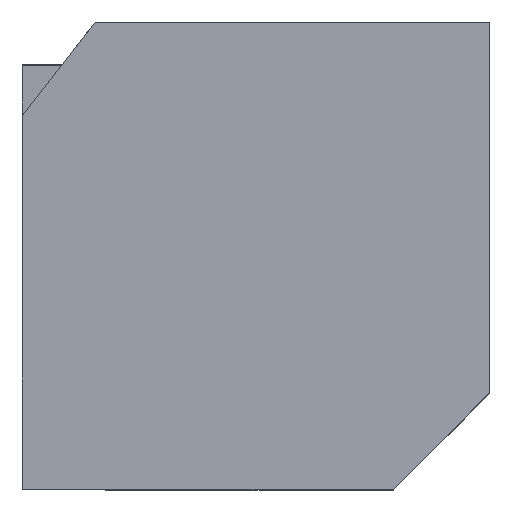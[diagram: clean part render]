
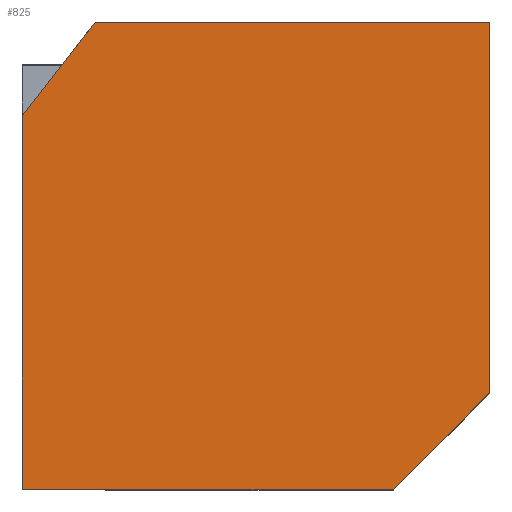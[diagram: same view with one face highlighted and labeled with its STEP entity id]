
A CAD part, top view. The second image highlights one B-rep face of the part: STEP entity #825.
In plain terms, the highlighted planar face has unit normal (0, 0, 1).
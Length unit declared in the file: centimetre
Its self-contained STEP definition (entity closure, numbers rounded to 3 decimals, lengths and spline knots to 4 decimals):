
#32 = LINE ( 'NONE', #694, #164 ) ;
#102 = ORIENTED_EDGE ( 'NONE', *, *, #804, .T. ) ;
#127 = CARTESIAN_POINT ( 'NONE',  ( 0., 799.7314, 1000. ) ) ;
#164 = VECTOR ( 'NONE', #1198, 100. ) ;
#168 = ORIENTED_EDGE ( 'NONE', *, *, #224, .F. ) ;
#172 = CARTESIAN_POINT ( 'NONE',  ( 1000., 1000., 1000. ) ) ;
#215 = CARTESIAN_POINT ( 'NONE',  ( 0., 1000., 1000. ) ) ;
#224 = EDGE_CURVE ( 'NONE', #582, #1205, #801, .T. ) ;
#244 = EDGE_CURVE ( 'NONE', #1020, #563, #678, .T. ) ;
#245 = LINE ( 'NONE', #999, #1162 ) ;
#286 = EDGE_CURVE ( 'NONE', #1325, #1205, #32, .T. ) ;
#342 = VECTOR ( 'NONE', #574, 100. ) ;
#362 = DIRECTION ( 'NONE',  ( 1., 0., 0. ) ) ;
#423 = EDGE_CURVE ( 'NONE', #582, #919, #1261, .T. ) ;
#461 = CARTESIAN_POINT ( 'NONE',  ( 397.0093, -397.0093, 1000. ) ) ;
#526 = ORIENTED_EDGE ( 'NONE', *, *, #244, .T. ) ;
#563 = VERTEX_POINT ( 'NONE', #1286 ) ;
#574 = DIRECTION ( 'NONE',  ( 0.707, 0.707, 0. ) ) ;
#582 = VERTEX_POINT ( 'NONE', #127 ) ;
#597 = DIRECTION ( 'NONE',  ( 0., 1., 0. ) ) ;
#641 = DIRECTION ( 'NONE',  ( 0., -1., 0. ) ) ;
#668 = DIRECTION ( 'NONE',  ( 1., 0., 0. ) ) ;
#678 = LINE ( 'NONE', #461, #342 ) ;
#694 = CARTESIAN_POINT ( 'NONE',  ( 0., 1000., 1000. ) ) ;
#735 = EDGE_LOOP ( 'NONE', ( #168, #959, #1069, #526, #102, #977 ) ) ;
#779 = CARTESIAN_POINT ( 'NONE',  ( 0., 0., 1000. ) ) ;
#799 = DIRECTION ( 'NONE',  ( 0., 0., 1. ) ) ;
#801 = LINE ( 'NONE', #1211, #1011 ) ;
#804 = EDGE_CURVE ( 'NONE', #563, #1325, #1130, .T. ) ;
#808 = CARTESIAN_POINT ( 'NONE',  ( 0., 0., 1000. ) ) ;
#825 = ADVANCED_FACE ( 'NONE', ( #1092 ), #1019, .T. ) ;
#919 = VERTEX_POINT ( 'NONE', #779 ) ;
#924 = VECTOR ( 'NONE', #641, 100. ) ;
#933 = EDGE_CURVE ( 'NONE', #919, #1020, #245, .T. ) ;
#959 = ORIENTED_EDGE ( 'NONE', *, *, #423, .T. ) ;
#968 = AXIS2_PLACEMENT_3D ( 'NONE', #808, #799, #362 ) ;
#977 = ORIENTED_EDGE ( 'NONE', *, *, #286, .T. ) ;
#999 = CARTESIAN_POINT ( 'NONE',  ( 0., 0., 1000. ) ) ;
#1006 = DIRECTION ( 'NONE',  ( 0.613, 0.79, 0. ) ) ;
#1011 = VECTOR ( 'NONE', #1006, 100. ) ;
#1019 = PLANE ( 'NONE',  #968 ) ;
#1020 = VERTEX_POINT ( 'NONE', #1025 ) ;
#1025 = CARTESIAN_POINT ( 'NONE',  ( 794.0186, 0., 1000. ) ) ;
#1053 = CARTESIAN_POINT ( 'NONE',  ( 1000., 1000., 1000. ) ) ;
#1069 = ORIENTED_EDGE ( 'NONE', *, *, #933, .T. ) ;
#1081 = VECTOR ( 'NONE', #597, 100. ) ;
#1086 = CARTESIAN_POINT ( 'NONE',  ( 155.4741, 1000., 1000. ) ) ;
#1092 = FACE_OUTER_BOUND ( 'NONE', #735, .T. ) ;
#1130 = LINE ( 'NONE', #172, #1081 ) ;
#1162 = VECTOR ( 'NONE', #668, 100. ) ;
#1198 = DIRECTION ( 'NONE',  ( -1., 0., 0. ) ) ;
#1205 = VERTEX_POINT ( 'NONE', #1086 ) ;
#1211 = CARTESIAN_POINT ( 'NONE',  ( 0., 799.7314, 1000. ) ) ;
#1261 = LINE ( 'NONE', #215, #924 ) ;
#1286 = CARTESIAN_POINT ( 'NONE',  ( 1000., 205.9814, 1000. ) ) ;
#1325 = VERTEX_POINT ( 'NONE', #1053 ) ;
